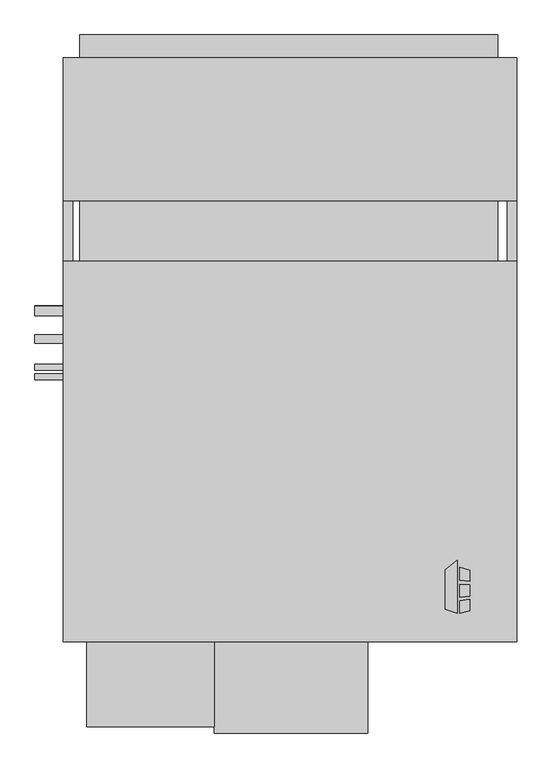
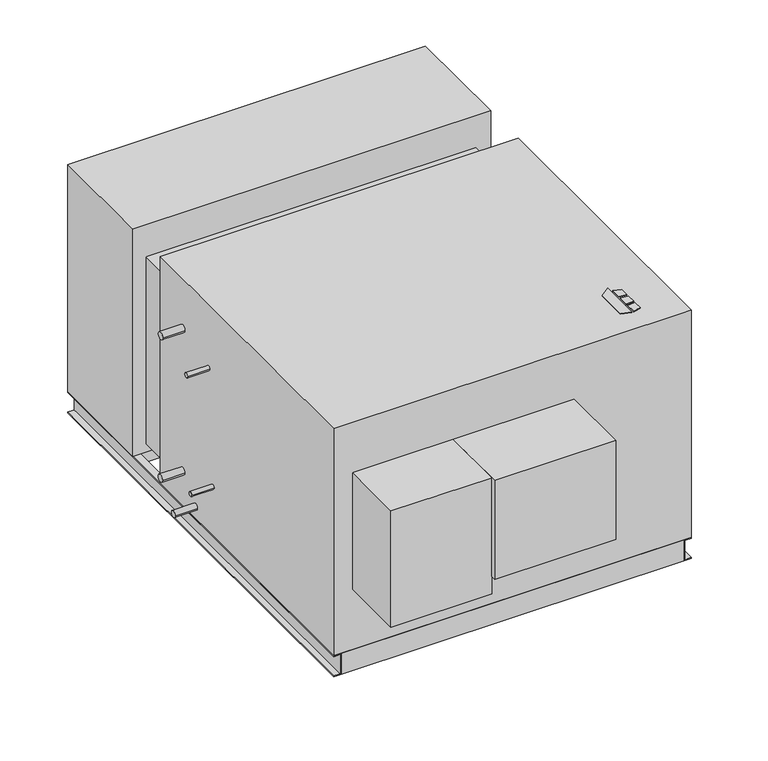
"""IFC4 building model written with IfcOpenShell, lengths in millimetres: proxy geometry, Horizontal_Direct_Drive_Blower_Coil_Unit_-_HDY_-_IEC_-_4-Pipe_NFilterR_W-MixingBox_LH_2022 : Size 30 - 460v/60Hz/3Ph - 6/2 Coil."""

import ifcopenshell
import ifcopenshell.guid

model = None  # the IFC model being written
_history = None  # IfcOwnerHistory: only IFC2X3 demands one
_inside = {}  # id of a spatial element -> (the spatial element, [elements in it])
_under = {}  # id of a project, library or spatial element -> (it, [spatial elements below it])
_declared = {}  # id of a project -> (the project, [libraries it declares])
_typed = {}  # id of a type object -> (the type object, [elements of that type])
_made_of = {}  # id of a material, layer set ... -> (it, [elements and type objects made of it])


def new_model(schema):
    """Start an empty IFC model of exactly this schema.

    Asked for "IFC4X3", IfcOpenShell would pick the latest addendum, in which some entities
    have other attributes; the version numbers below select the first issue.
    IFC2X3 requires an IfcOwnerHistory on every rooted entity: one is made here for all.
    """
    global model, _history
    if schema == "IFC4X3":
        model = ifcopenshell.file(schema_version=(4, 3, 0, 0))
    else:
        model = ifcopenshell.file(schema=schema)
    _inside.clear()
    _under.clear()
    _declared.clear()
    _typed.clear()
    _made_of.clear()
    _history = None
    if model.schema == "IFC2X3":
        org = make("IfcOrganization", Name="unknown")
        user = make(
            "IfcPersonAndOrganization",
            ThePerson=make("IfcPerson", FamilyName="unknown"),
            TheOrganization=org,
        )
        app = make(
            "IfcApplication",
            ApplicationDeveloper=org,
            Version="unknown",
            ApplicationFullName="unknown",
            ApplicationIdentifier="unknown",
        )
        _history = make(
            "IfcOwnerHistory",
            OwningUser=user,
            OwningApplication=app,
            ChangeAction="ADDED",
            CreationDate=0,
        )
    return model


def make(cls, **values):
    """One entity of the class cls with the attributes given. An attribute that is None is left unset."""
    return model.create_entity(
        cls, **{name: value for name, value in values.items() if value is not None}
    )


def rooted(cls, **values):
    """An entity with a GlobalId (a new one), such as an element, a storey or a relation."""
    return make(cls, GlobalId=ifcopenshell.guid.new(), OwnerHistory=_history, **values)


def si_unit(unit_type, name, prefix=None):
    """IfcSIUnit, for example si_unit("LENGTHUNIT", "METRE", prefix="MILLI")."""
    return make("IfcSIUnit", UnitType=unit_type, Prefix=prefix, Name=name)


def assignment(units):
    """IfcUnitAssignment: the units of a project."""
    return None if units is None else make("IfcUnitAssignment", Units=units)


def point(xyz):
    """IfcCartesianPoint."""
    return None if xyz is None else make("IfcCartesianPoint", Coordinates=xyz)


def direction(xyz):
    """IfcDirection."""
    return None if xyz is None else make("IfcDirection", DirectionRatios=xyz)


def frame(location, z_axis=None, x_axis=None):
    """IfcAxis2Placement3D, a coordinate frame: its origin and axes. An axis left out is left unset."""
    return make(
        "IfcAxis2Placement3D",
        Location=point(location),
        Axis=direction(z_axis),
        RefDirection=direction(x_axis),
    )


def frame_2d(location, x_axis=None):
    """IfcAxis2Placement2D, a coordinate frame in the plane: its origin and x axis."""
    return make(
        "IfcAxis2Placement2D", Location=point(location), RefDirection=direction(x_axis)
    )


def origin():
    """The frame at (0, 0, 0) with its axes left unset."""
    return frame((0.0, 0.0, 0.0))


def origin_with_axes():
    """The frame at (0, 0, 0) with the z axis (0, 0, 1) and the x axis (1, 0, 0) written out."""
    return frame((0.0, 0.0, 0.0), z_axis=(0.0, 0.0, 1.0), x_axis=(1.0, 0.0, 0.0))


def place(relative_to, where):
    """IfcLocalPlacement: puts the frame where relative to a parent placement (None: the world)."""
    return make(
        "IfcLocalPlacement", PlacementRelTo=relative_to, RelativePlacement=where
    )


def context(
    kind, dimensions, precision=None, world=None, true_north=None, identifier=None
):
    """IfcGeometricRepresentationContext, for example the 3D "Model" context."""
    return make(
        "IfcGeometricRepresentationContext",
        ContextIdentifier=identifier,
        ContextType=kind,
        CoordinateSpaceDimension=dimensions,
        Precision=precision,
        WorldCoordinateSystem=world,
        TrueNorth=true_north,
    )


def project(units=None, contexts=None):
    """IfcProject with its units and contexts."""
    return rooted(
        "IfcProject",
        Name="project",
        RepresentationContexts=contexts,
        UnitsInContext=assignment(units),
    )


def spatial(cls, under=None, at=None, **own):
    """A site, building, storey or space (cls), placed at a placement, below another one or the project."""
    s = rooted(cls, ObjectPlacement=at, **own)
    if under is not None:
        _under.setdefault(under.id(), (under, []))[1].append(s)
    return s


def polyline(points):
    """IfcPolyline through the points."""
    return make("IfcPolyline", Points=[point(p) for p in points])


def circle_curve(where, radius):
    """IfcCircle in the frame where."""
    return make("IfcCircle", Position=where, Radius=radius)


def trimmed(basis, trim1, trim2, sense, master):
    """IfcTrimmedCurve: the piece of a basis curve between two trims."""
    return make(
        "IfcTrimmedCurve",
        BasisCurve=basis,
        Trim1=trim1,
        Trim2=trim2,
        SenseAgreement=sense,
        MasterRepresentation=master,
    )


def segment(curve, same_sense, transition):
    """IfcCompositeCurveSegment."""
    return make(
        "IfcCompositeCurveSegment",
        Transition=transition,
        SameSense=same_sense,
        ParentCurve=curve,
    )


def composite_curve(segments, self_intersect=None):
    """IfcCompositeCurve: segments joined end to end."""
    return make("IfcCompositeCurve", Segments=segments, SelfIntersect=self_intersect)


def outline(outer, holes=None, kind="AREA"):
    """IfcArbitraryClosedProfileDef: a profile drawn as a closed curve; with holes, ...WithVoids."""
    if holes is None:
        return make("IfcArbitraryClosedProfileDef", ProfileType=kind, OuterCurve=outer)
    return make(
        "IfcArbitraryProfileDefWithVoids",
        ProfileType=kind,
        OuterCurve=outer,
        InnerCurves=holes,
    )


def extrude(swept, where, along, depth):
    """IfcExtrudedAreaSolid: the profile swept, set in the frame where, extruded along a direction by depth."""
    return make(
        "IfcExtrudedAreaSolid",
        SweptArea=swept,
        Position=where,
        ExtrudedDirection=direction(along),
        Depth=depth,
    )


def shape(context_of_items, identifier, shape_type, items):
    """IfcShapeRepresentation: the items that make up one representation, for example the "Body"."""
    return make(
        "IfcShapeRepresentation",
        ContextOfItems=context_of_items,
        RepresentationIdentifier=identifier,
        RepresentationType=shape_type,
        Items=items,
    )


def source(mapping_origin, context_of_items, identifier, shape_type, items):
    """IfcRepresentationMap: a shape defined once, which mapped items show again and again."""
    return make(
        "IfcRepresentationMap",
        MappingOrigin=mapping_origin,
        MappedRepresentation=shape(context_of_items, identifier, shape_type, items),
    )


def transform(
    local_origin,
    x_axis=None,
    y_axis=None,
    z_axis=None,
    scale=None,
    scale2=None,
    scale3=None,
    uniform=True,
):
    """IfcCartesianTransformationOperator3D, or its non-uniform kind. x_axis, y_axis, z_axis: its Axis1, 2, 3."""
    if uniform:
        return make(
            "IfcCartesianTransformationOperator3D",
            Axis1=direction(x_axis),
            Axis2=direction(y_axis),
            LocalOrigin=point(local_origin),
            Scale=scale,
            Axis3=direction(z_axis),
        )
    return make(
        "IfcCartesianTransformationOperator3DnonUniform",
        Axis1=direction(x_axis),
        Axis2=direction(y_axis),
        LocalOrigin=point(local_origin),
        Scale=scale,
        Axis3=direction(z_axis),
        Scale2=scale2,
        Scale3=scale3,
    )


def mapped(mapping_source, mapping_target):
    """IfcMappedItem: shows the shape of a source again, moved by a transform."""
    return make(
        "IfcMappedItem", MappingSource=mapping_source, MappingTarget=mapping_target
    )


def made_of(thing, what):
    """Note that an element or type object is made of a material, layer set ...; save() writes the relation."""
    if what is not None:
        _made_of.setdefault(what.id(), (what, []))[1].append(thing)
    return thing


def element(
    cls,
    number,
    at=None,
    inside=None,
    cuts=None,
    type_object=None,
    material=None,
    context=None,
    identifier="Body",
    shape_type=None,
    held_by="IfcProductDefinitionShape",
    body=None,
    shapes=None,
    **own,
):
    """One element of the class cls, such as IfcWall. Its Tag is "e" and its number.

    at: its placement. inside: the storey or other place that contains it. cuts: it is an
    opening in that element (IfcRelVoidsElement). A single representation is given by context,
    identifier, shape_type and body (its items); several are given by shapes. held_by: the class
    of the entity that holds the representations. save() writes the other relations.
    """
    e = rooted(cls, Tag="e%d" % number, ObjectPlacement=at, **own)
    if body is not None:
        shapes = [shape(context, identifier, shape_type, body)]
    if shapes is not None:
        e.Representation = make(held_by, Representations=shapes)
    if inside is not None:
        _inside.setdefault(inside.id(), (inside, []))[1].append(e)
    if cuts is not None:
        rooted(
            "IfcRelVoidsElement", RelatingBuildingElement=cuts, RelatedOpeningElement=e
        )
    if type_object is not None:
        _typed.setdefault(type_object.id(), (type_object, []))[1].append(e)
    return made_of(e, material)


def aggregate(whole, parts):
    """IfcRelAggregates: a whole, such as a stair, and the parts it consists of."""
    return rooted("IfcRelAggregates", RelatingObject=whole, RelatedObjects=parts)


def save(model, path):
    """Write the relations noted so far, then the file.

    IfcRelAggregates (storeys below a building ...), IfcRelContainedInSpatialStructure (elements
    in a storey), IfcRelDefinesByType, IfcRelAssociatesMaterial and IfcRelDeclares: one each for
    every whole, place, type object, material and project.
    """
    for whole, parts in _under.values():
        aggregate(whole, parts)
    for where, things in _inside.values():
        rooted(
            "IfcRelContainedInSpatialStructure",
            RelatedElements=things,
            RelatingStructure=where,
        )
    for kind, things in _typed.values():
        rooted("IfcRelDefinesByType", RelatedObjects=things, RelatingType=kind)
    for what, things in _made_of.values():
        rooted("IfcRelAssociatesMaterial", RelatedObjects=things, RelatingMaterial=what)
    for by, libraries in _declared.values():
        rooted("IfcRelDeclares", RelatingContext=by, RelatedDefinitions=libraries)
    model.write(path)


def mechanical_equipment_debe2f92(model_context):
    return source(origin(), model_context, "Body", "SweptSolid", [
        extrude(outline(polyline([(-39.9980239, -337.5078476), (-7.4397272, -312.0705184), (-7.4397272, -454.025), (-39.9980239, -443.8054201), (-39.9980239, -337.5078476)])), origin_with_axes(), (0.0, 0.0, 1.0), 3.175),
        extrude(outline(polyline([(-0.6813942, -365.379852), (-0.6813942, -330.8999379), (25.4, -339.0865115), (25.4, -368.5822446), (-0.6813942, -365.379852)])), origin_with_axes(), (0.0, 0.0, 1.0), 3.175),
        extrude(outline(polyline([(25.4, -447.0365115), (-0.6813942, -454.025), (-0.6813942, -420.8036996), (25.4, -417.2618564), (25.4, -447.0365115)])), origin_with_axes(), (0.0, 0.0, 1.0), 3.175),
        extrude(outline(polyline([(25.4, -377.6638277), (25.4, -408.913983), (-0.6813942, -411.655248), (-0.6813942, -375.7975378), (25.4, -377.6638277)])), origin_with_axes(), (0.0, 0.0, 1.0), 3.175),
        extrude(outline(polyline([(101.6, 937.895), (101.6, 683.895), (-1022.35, 683.895), (-1022.35, 937.895), (101.6, 937.895)])), frame((0.0, 0.0, -880.11), z_axis=(0.0, 0.0, 1.0), x_axis=(1.0, 0.0, 0.0)), (0.0, 0.0, 1.0), 60.96),
        extrude(outline(polyline([(-1022.35, 1100.455), (101.6, 1100.455), (101.6, 1039.495), (-1022.35, 1039.495), (-1022.35, 1100.455)])), frame((0.0, 0.0, -330.2), z_axis=(0.0, 0.0, 1.0), x_axis=(1.0, 0.0, 0.0)), (0.0, 0.0, 1.0), 254.0),
        extrude(outline(polyline([(152.4, 1039.495), (152.4, 654.05), (-1066.8, 654.05), (-1066.8, 1039.495), (152.4, 1039.495)])), frame((0.0, 0.0, -819.15), z_axis=(0.0, 0.0, 1.0), x_axis=(1.0, 0.0, 0.0)), (0.0, 0.0, 1.0), 819.15),
        extrude(outline(polyline([(127.0, -504.825), (127.0, -530.225), (-1041.4, -530.225), (-1041.4, -504.825), (127.0, -504.825)])), frame((0.0, 0.0, -895.35), z_axis=(0.0, 0.0, 1.0), x_axis=(1.0, 0.0, 0.0)), (0.0, 0.0, 1.0), 76.2),
        extrude(outline(polyline([(127.0, 1039.495), (127.0, 1014.095), (-1041.4, 1014.095), (-1041.4, 1039.495), (127.0, 1039.495)])), frame((0.0, 0.0, -895.35), z_axis=(0.0, 0.0, 1.0), x_axis=(1.0, 0.0, 0.0)), (0.0, 0.0, 1.0), 76.2),
        extrude(outline(polyline([(-819.15, -1041.4), (-819.15, -1066.8), (-822.325, -1066.8), (-822.325, -1044.575), (-892.175, -1044.575), (-892.175, -1066.8), (-895.35, -1066.8), (-895.35, -1041.4), (-819.15, -1041.4)])), frame((0.0, -530.225, 0.0), z_axis=(0.0, 1.0, 0.0), x_axis=(0.0, 0.0, 1.0)), (0.0, 0.0, 1.0), 1569.72),
        extrude(outline(polyline([(-819.15, 127.0), (-895.35, 127.0), (-895.35, 152.4), (-892.175, 152.4), (-892.175, 130.175), (-822.325, 130.175), (-822.325, 152.4), (-819.15, 152.4), (-819.15, 127.0)])), frame((0.0, -530.225, 0.0), z_axis=(0.0, 1.0, 0.0), x_axis=(0.0, 0.0, 1.0)), (0.0, 0.0, 1.0), 1569.72),
        extrude(outline(composite_curve([segment(trimmed(circle_curve(frame_2d((358.775, -177.8)), 12.7), [point((371.475, -177.8))], [point((346.075, -177.8))], False, "CARTESIAN"), True, "CONTINUOUS"), segment(trimmed(circle_curve(frame_2d((358.775, -177.8)), 12.7), [point((346.075, -177.8))], [point((371.475, -177.8))], False, "CARTESIAN"), True, "CONTINUOUS")], self_intersect=False)), frame((-1143.0, 0.0, 0.0), z_axis=(1.0, 0.0, 0.0), x_axis=(0.0, 1.0, 0.0)), (0.0, 0.0, 1.0), 76.2),
        extrude(outline(composite_curve([segment(trimmed(circle_curve(frame_2d((359.642288, -692.15)), 12.7), [point((372.342288, -692.15))], [point((346.942288, -692.15))], False, "CARTESIAN"), True, "CONTINUOUS"), segment(trimmed(circle_curve(frame_2d((359.642288, -692.15)), 12.7), [point((346.942288, -692.15))], [point((372.342288, -692.15))], False, "CARTESIAN"), True, "CONTINUOUS")], self_intersect=False)), frame((-1143.0, 0.0, 0.0), z_axis=(1.0, 0.0, 0.0), x_axis=(0.0, 1.0, 0.0)), (0.0, 0.0, 1.0), 76.2),
        extrude(outline(composite_curve([segment(trimmed(circle_curve(frame_2d((283.442288, -774.7)), 11.1125), [point((294.554788, -774.7))], [point((272.329788, -774.7))], False, "CARTESIAN"), True, "CONTINUOUS"), segment(trimmed(circle_curve(frame_2d((283.442288, -774.7)), 11.1125), [point((272.329788, -774.7))], [point((294.554788, -774.7))], False, "CARTESIAN"), True, "CONTINUOUS")], self_intersect=False)), frame((-1143.0, 0.0, 0.0), z_axis=(1.0, 0.0, 0.0), x_axis=(0.0, 1.0, 0.0)), (0.0, 0.0, 1.0), 76.2),
        extrude(outline(composite_curve([segment(trimmed(circle_curve(frame_2d((207.242288, -228.6)), 7.9375), [point((215.179788, -228.6))], [point((199.304788, -228.6))], False, "CARTESIAN"), True, "CONTINUOUS"), segment(trimmed(circle_curve(frame_2d((207.242288, -228.6)), 7.9375), [point((199.304788, -228.6))], [point((215.179788, -228.6))], False, "CARTESIAN"), True, "CONTINUOUS")], self_intersect=False)), frame((-1143.0, 0.0, 0.0), z_axis=(1.0, 0.0, 0.0), x_axis=(0.0, 1.0, 0.0)), (0.0, 0.0, 1.0), 76.2),
        extrude(outline(composite_curve([segment(trimmed(circle_curve(frame_2d((181.842288, -641.6292556)), 7.9375), [point((189.779788, -641.6292556))], [point((173.904788, -641.6292556))], False, "CARTESIAN"), True, "CONTINUOUS"), segment(trimmed(circle_curve(frame_2d((181.842288, -641.6292556)), 7.9375), [point((173.904788, -641.6292556))], [point((189.779788, -641.6292556))], False, "CARTESIAN"), True, "CONTINUOUS")], self_intersect=False)), frame((-1143.0, 0.0, 0.0), z_axis=(1.0, 0.0, 0.0), x_axis=(0.0, 1.0, 0.0)), (0.0, 0.0, 1.0), 76.2),
        extrude(outline(polyline([(152.4, 492.125), (152.4, -530.225), (-1066.8, -530.225), (-1066.8, 492.125), (152.4, 492.125)])), frame((0.0, 0.0, -819.15), z_axis=(0.0, 0.0, 1.0), x_axis=(1.0, 0.0, 0.0)), (0.0, 0.0, 1.0), 819.15),
        extrude(outline(polyline([(-660.4, -758.825), (-1003.3, -758.825), (-1003.3, -530.225), (-660.4, -530.225), (-660.4, -758.825)])), frame((0.0, 0.0, -600.075), z_axis=(0.0, 0.0, 1.0), x_axis=(1.0, 0.0, 0.0)), (0.0, 0.0, 1.0), 419.1),
        extrude(outline(polyline([(-1022.35, 654.05), (101.6, 654.05), (101.6, 492.125), (-1022.35, 492.125), (-1022.35, 654.05)])), frame((0.0, 0.0, -787.4), z_axis=(0.0, 0.0, 1.0), x_axis=(1.0, 0.0, 0.0)), (0.0, 0.0, 1.0), 673.1),
        extrude(outline(polyline([(-247.65, -776.2875), (-660.4, -776.2875), (-660.4, -530.225), (-247.65, -530.225), (-247.65, -776.2875)])), frame((0.0, 0.0, -536.575), z_axis=(0.0, 0.0, 1.0), x_axis=(1.0, 0.0, 0.0)), (0.0, 0.0, 1.0), 355.6),
    ])


if __name__ == "__main__":
    model = new_model("IFC4")
    model_context = context("Model", 3, world=origin())
    ifc_project = project(units=[si_unit("LENGTHUNIT", "METRE", prefix="MILLI")], contexts=[model_context])
    site = spatial("IfcSite", under=ifc_project)
    building = spatial("IfcBuilding", under=site)
    placement = place(None, origin())
    mechanical_equipment_shape = mechanical_equipment_debe2f92(model_context)
    element("IfcBuildingElementProxy", 1, Name="Horizontal_Direct_Drive_Blower_Coil_Unit_-_HDY_-_IEC_-_4-Pipe_NFilterR_W-MixingBox_LH_2022 : Size 30 - 460v/60Hz/3Ph - 6/2 Coil", ObjectType="Horizontal_Direct_Drive_Blower_Coil_Unit_-_HDY_-_IEC_-_4-Pipe_NFilterR_W-MixingBox_LH_2022 : Size 30 - 460v/60Hz/3Ph - 6/2 Coil", at=placement, inside=building, context=model_context, shape_type="MappedRepresentation", body=[
        mapped(mechanical_equipment_shape, transform((0.0, 0.0, 0.0), x_axis=(1.0, 0.0, 0.0), y_axis=(0.0, 1.0, 0.0), z_axis=(0.0, 0.0, 1.0))),
    ])
    save(model, "model.ifc")
